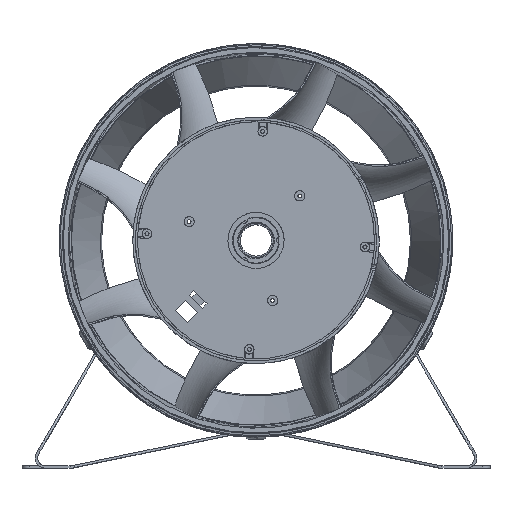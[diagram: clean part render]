
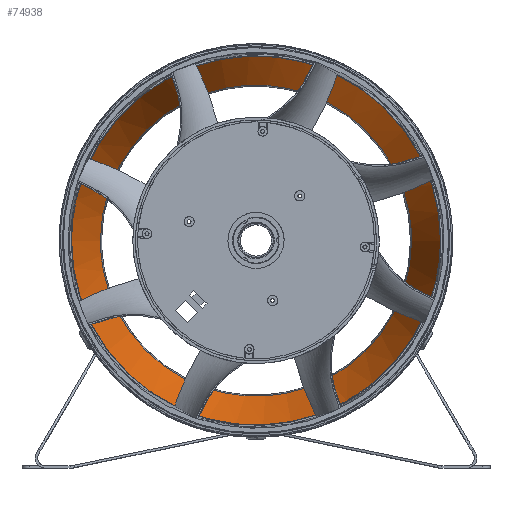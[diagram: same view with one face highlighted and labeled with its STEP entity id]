
A CAD part, top view. The second image highlights one B-rep face of the part: STEP entity #74938.
In plain terms, the highlighted free-form (B-spline) face has degree [2, 1] with [9, 2] control points.
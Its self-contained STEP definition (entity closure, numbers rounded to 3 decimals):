
#74871 = CARTESIAN_POINT ('', (118.239, 0., -100.708));
#74872 = VERTEX_POINT ('', #74871);
#74873 = CARTESIAN_POINT ('', (99.753, 0., -150.426));
#74874 = VERTEX_POINT ('', #74873);
#74875 = CARTESIAN_POINT ('', (118.239, 0., -100.708));
#74876 = CARTESIAN_POINT ('', (99.753, 0., -150.426));
#74877 = B_SPLINE_CURVE_WITH_KNOTS ('', 1, (#74875, #74876), .UNSPECIFIED., .F., .U., (2, 2), (0., 1.), .UNSPECIFIED.);
#74878 = EDGE_CURVE ('', #74872, #74874, #74877, .T.);
#74879 = ORIENTED_EDGE ('', *, *, #74878, .T.);
#74880 = CARTESIAN_POINT ('', (-99.752, 0., -150.426));
#74881 = VERTEX_POINT ('', #74880);
#74882 = CARTESIAN_POINT ('', (99.753, 0., -150.426));
#74883 = CARTESIAN_POINT ('', (99.753, -99.753, -150.426));
#74884 = CARTESIAN_POINT ('', (0., -99.753, -150.426));
#74885 = CARTESIAN_POINT ('', (-99.752, -99.753, -150.426));
#74886 = CARTESIAN_POINT ('', (-99.752, 0., -150.426));
#74887 = (
   BOUNDED_CURVE ()
   B_SPLINE_CURVE (2, (#74882, #74883, #74884, #74885, #74886), .UNSPECIFIED., .F., .U.)
   B_SPLINE_CURVE_WITH_KNOTS ((3, 2, 3), (180., 270., 360.), .UNSPECIFIED.)
   CURVE ()
   GEOMETRIC_REPRESENTATION_ITEM ()
   RATIONAL_B_SPLINE_CURVE ((1., 0.707, 1., 0.707, 1.))
   REPRESENTATION_ITEM ('')
);
#74888 = EDGE_CURVE ('', #74874, #74881, #74887, .T.);
#74889 = ORIENTED_EDGE ('', *, *, #74888, .T.);
#74890 = CARTESIAN_POINT ('', (-99.752, 0., -150.426));
#74891 = CARTESIAN_POINT ('', (-99.752, 99.752, -150.426));
#74892 = CARTESIAN_POINT ('', (0., 99.752, -150.426));
#74893 = CARTESIAN_POINT ('', (99.753, 99.752, -150.426));
#74894 = CARTESIAN_POINT ('', (99.753, 0., -150.426));
#74895 = (
   BOUNDED_CURVE ()
   B_SPLINE_CURVE (2, (#74890, #74891, #74892, #74893, #74894), .UNSPECIFIED., .F., .U.)
   B_SPLINE_CURVE_WITH_KNOTS ((3, 2, 3), (0., 90., 180.), .UNSPECIFIED.)
   CURVE ()
   GEOMETRIC_REPRESENTATION_ITEM ()
   RATIONAL_B_SPLINE_CURVE ((1., 0.707, 1., 0.707, 1.))
   REPRESENTATION_ITEM ('')
);
#74896 = EDGE_CURVE ('', #74881, #74874, #74895, .T.);
#74897 = ORIENTED_EDGE ('', *, *, #74896, .T.);
#74898 = ORIENTED_EDGE ('', *, *, #74878, .F.);
#74899 = CARTESIAN_POINT ('', (-118.239, 0., -100.708));
#74900 = VERTEX_POINT ('', #74899);
#74901 = CARTESIAN_POINT ('', (118.239, 0., -100.708));
#74902 = CARTESIAN_POINT ('', (118.239, 118.239, -100.708));
#74903 = CARTESIAN_POINT ('', (0., 118.239, -100.708));
#74904 = CARTESIAN_POINT ('', (-118.239, 118.239, -100.708));
#74905 = CARTESIAN_POINT ('', (-118.239, 0., -100.708));
#74906 = (
   BOUNDED_CURVE ()
   B_SPLINE_CURVE (2, (#74901, #74902, #74903, #74904, #74905), .UNSPECIFIED., .F., .U.)
   B_SPLINE_CURVE_WITH_KNOTS ((3, 2, 3), (0., 90., 180.), .UNSPECIFIED.)
   CURVE ()
   GEOMETRIC_REPRESENTATION_ITEM ()
   RATIONAL_B_SPLINE_CURVE ((1., 0.707, 1., 0.707, 1.))
   REPRESENTATION_ITEM ('')
);
#74907 = EDGE_CURVE ('', #74872, #74900, #74906, .T.);
#74908 = ORIENTED_EDGE ('', *, *, #74907, .T.);
#74909 = CARTESIAN_POINT ('', (-118.239, 0., -100.708));
#74910 = CARTESIAN_POINT ('', (-118.239, -118.24, -100.708));
#74911 = CARTESIAN_POINT ('', (0., -118.24, -100.708));
#74912 = CARTESIAN_POINT ('', (118.239, -118.24, -100.708));
#74913 = CARTESIAN_POINT ('', (118.239, 0., -100.708));
#74914 = (
   BOUNDED_CURVE ()
   B_SPLINE_CURVE (2, (#74909, #74910, #74911, #74912, #74913), .UNSPECIFIED., .F., .U.)
   B_SPLINE_CURVE_WITH_KNOTS ((3, 2, 3), (180., 270., 360.), .UNSPECIFIED.)
   CURVE ()
   GEOMETRIC_REPRESENTATION_ITEM ()
   RATIONAL_B_SPLINE_CURVE ((1., 0.707, 1., 0.707, 1.))
   REPRESENTATION_ITEM ('')
);
#74915 = EDGE_CURVE ('', #74900, #74872, #74914, .T.);
#74916 = ORIENTED_EDGE ('', *, *, #74915, .T.);
#74917 = EDGE_LOOP ('', (#74879, #74889, #74897, #74898, #74908, #74916));
#74918 = FACE_OUTER_BOUND ('', #74917, .T.);
#74919 = CARTESIAN_POINT ('', (99.752, 0., -150.427));
#74920 = CARTESIAN_POINT ('', (118.24, 0., -100.707));
#74921 = CARTESIAN_POINT ('', (99.752, -99.752, -150.427));
#74922 = CARTESIAN_POINT ('', (118.24, -118.24, -100.707));
#74923 = CARTESIAN_POINT ('', (0., -99.752, -150.427));
#74924 = CARTESIAN_POINT ('', (0., -118.24, -100.707));
#74925 = CARTESIAN_POINT ('', (-99.752, -99.752, -150.427));
#74926 = CARTESIAN_POINT ('', (-118.239, -118.24, -100.707));
#74927 = CARTESIAN_POINT ('', (-99.752, 0., -150.427));
#74928 = CARTESIAN_POINT ('', (-118.239, 0., -100.707));
#74929 = CARTESIAN_POINT ('', (-99.752, 99.752, -150.427));
#74930 = CARTESIAN_POINT ('', (-118.239, 118.239, -100.707));
#74931 = CARTESIAN_POINT ('', (0., 99.752, -150.427));
#74932 = CARTESIAN_POINT ('', (0., 118.239, -100.707));
#74933 = CARTESIAN_POINT ('', (99.752, 99.752, -150.427));
#74934 = CARTESIAN_POINT ('', (118.24, 118.239, -100.707));
#74935 = CARTESIAN_POINT ('', (99.752, 0., -150.427));
#74936 = CARTESIAN_POINT ('', (118.24, 0., -100.707));
#74937 = (
   BOUNDED_SURFACE ()
   B_SPLINE_SURFACE (2, 1, ((#74919, #74920), (#74921, #74922), (#74923, #74924), (#74925, #74926), (#74927, #74928), (#74929, #74930), (#74931, #74932), (#74933, #74934), (#74935, #74936)), .UNSPECIFIED., .T., .F., .U.)
   B_SPLINE_SURFACE_WITH_KNOTS ((3, 2, 2, 2, 3), (2, 2), (0., 0.25, 0.5, 0.75, 1.), (0., 1.), .UNSPECIFIED.)
   SURFACE ()
   GEOMETRIC_REPRESENTATION_ITEM ()
   RATIONAL_B_SPLINE_SURFACE (((1., 1.), (0.707, 0.707), (1., 1.), (0.707, 0.707), (1., 1.), (0.707, 0.707), (1., 1.), (0.707, 0.707), (1., 1.)))
   REPRESENTATION_ITEM ('')
);
#74938 = ADVANCED_FACE ('', (#74918), #74937, .T.);
